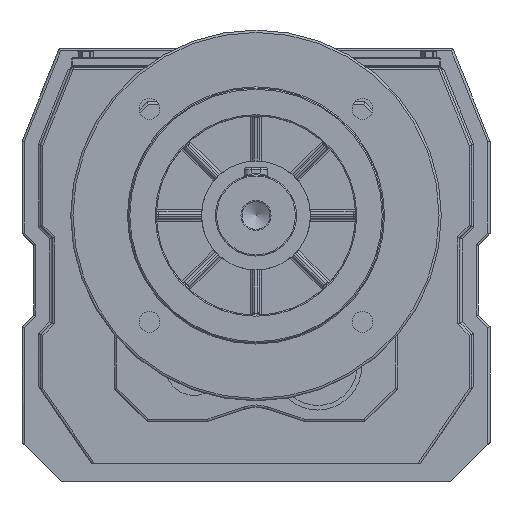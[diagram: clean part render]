
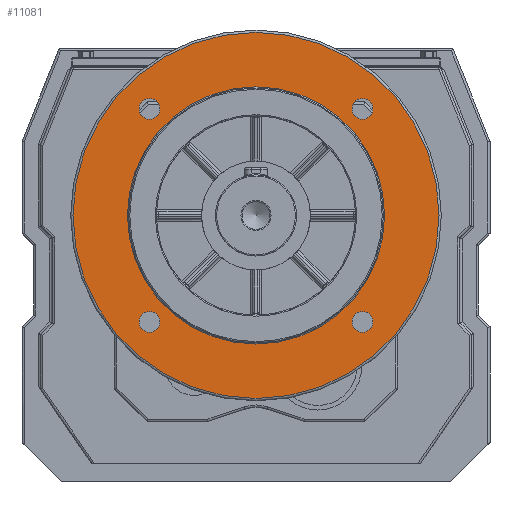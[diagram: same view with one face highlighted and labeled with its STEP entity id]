
A CAD part, front view. The second image highlights one B-rep face of the part: STEP entity #11081.
In plain terms, the highlighted planar face has unit normal (0, -1, 0).
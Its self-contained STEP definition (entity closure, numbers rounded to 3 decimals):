
#4824=CARTESIAN_POINT('',(-41.462,-112.5,160.962));
#4825=VERTEX_POINT('',#4824);
#4826=CARTESIAN_POINT('',(-45.962,-112.5,160.962));
#4827=DIRECTION('',(0.0,1.0,0.0));
#4828=DIRECTION('',(1.0,0.0,0.0));
#4829=AXIS2_PLACEMENT_3D('',#4826,#4827,#4828);
#4830=CIRCLE('',#4829,4.5);
#4831=EDGE_CURVE('',#4825,#4825,#4830,.T.);
#4873=CARTESIAN_POINT('',(-41.462,-112.5,69.038));
#4874=VERTEX_POINT('',#4873);
#4875=CARTESIAN_POINT('',(-45.962,-112.5,69.038));
#4876=DIRECTION('',(0.0,1.0,0.0));
#4877=DIRECTION('',(1.0,0.0,0.0));
#4878=AXIS2_PLACEMENT_3D('',#4875,#4876,#4877);
#4879=CIRCLE('',#4878,4.5);
#4880=EDGE_CURVE('',#4874,#4874,#4879,.T.);
#4922=CARTESIAN_POINT('',(50.462,-112.5,69.038));
#4923=VERTEX_POINT('',#4922);
#4924=CARTESIAN_POINT('',(45.962,-112.5,69.038));
#4925=DIRECTION('',(0.0,1.0,0.0));
#4926=DIRECTION('',(1.0,0.0,0.0));
#4927=AXIS2_PLACEMENT_3D('',#4924,#4925,#4926);
#4928=CIRCLE('',#4927,4.5);
#4929=EDGE_CURVE('',#4923,#4923,#4928,.T.);
#4971=CARTESIAN_POINT('',(50.462,-112.5,160.962));
#4972=VERTEX_POINT('',#4971);
#4973=CARTESIAN_POINT('',(45.962,-112.5,160.962));
#4974=DIRECTION('',(0.0,1.0,0.0));
#4975=DIRECTION('',(1.0,0.0,0.0));
#4976=AXIS2_PLACEMENT_3D('',#4973,#4974,#4975);
#4977=CIRCLE('',#4976,4.5);
#4978=EDGE_CURVE('',#4972,#4972,#4977,.T.);
#11035=CARTESIAN_POINT('',(0.0,-112.5,194.0));
#11036=VERTEX_POINT('',#11035);
#11037=CARTESIAN_POINT('',(0.0,-112.5,115.));
#11038=DIRECTION('',(0.0,1.0,0.0));
#11039=DIRECTION('',(0.0,0.0,-1.0));
#11040=AXIS2_PLACEMENT_3D('',#11037,#11038,#11039);
#11041=CIRCLE('',#11040,79.);
#11042=EDGE_CURVE('',#11036,#11036,#11041,.T.);
#11050=CARTESIAN_POINT('',(0.0,-112.5,182.5));
#11051=DIRECTION('',(0.0,-1.0,0.0));
#11052=DIRECTION('',(0.0,0.0,-1.0));
#11053=AXIS2_PLACEMENT_3D('',#11050,#11051,#11052);
#11054=PLANE('',#11053);
#11055=ORIENTED_EDGE('',*,*,#11042,.F.);
#11056=EDGE_LOOP('',(#11055));
#11057=FACE_OUTER_BOUND('',#11056,.T.);
#11058=ORIENTED_EDGE('',*,*,#4831,.T.);
#11059=EDGE_LOOP('',(#11058));
#11060=FACE_BOUND('',#11059,.T.);
#11061=ORIENTED_EDGE('',*,*,#4880,.T.);
#11062=EDGE_LOOP('',(#11061));
#11063=FACE_BOUND('',#11062,.T.);
#11064=ORIENTED_EDGE('',*,*,#4929,.T.);
#11065=EDGE_LOOP('',(#11064));
#11066=FACE_BOUND('',#11065,.T.);
#11067=ORIENTED_EDGE('',*,*,#4978,.T.);
#11068=EDGE_LOOP('',(#11067));
#11069=FACE_BOUND('',#11068,.T.);
#11070=CARTESIAN_POINT('',(0.,-112.5,170.5));
#11071=VERTEX_POINT('',#11070);
#11072=CARTESIAN_POINT('',(0.0,-112.5,115.));
#11073=DIRECTION('',(0.0,-1.0,0.0));
#11074=DIRECTION('',(0.0,0.0,-1.0));
#11075=AXIS2_PLACEMENT_3D('',#11072,#11073,#11074);
#11076=CIRCLE('',#11075,55.5);
#11077=EDGE_CURVE('',#11071,#11071,#11076,.T.);
#11078=ORIENTED_EDGE('',*,*,#11077,.F.);
#11079=EDGE_LOOP('',(#11078));
#11080=FACE_BOUND('',#11079,.T.);
#11081=ADVANCED_FACE('',(#11057,#11060,#11063,#11066,#11069,#11080),#11054,.T.);
